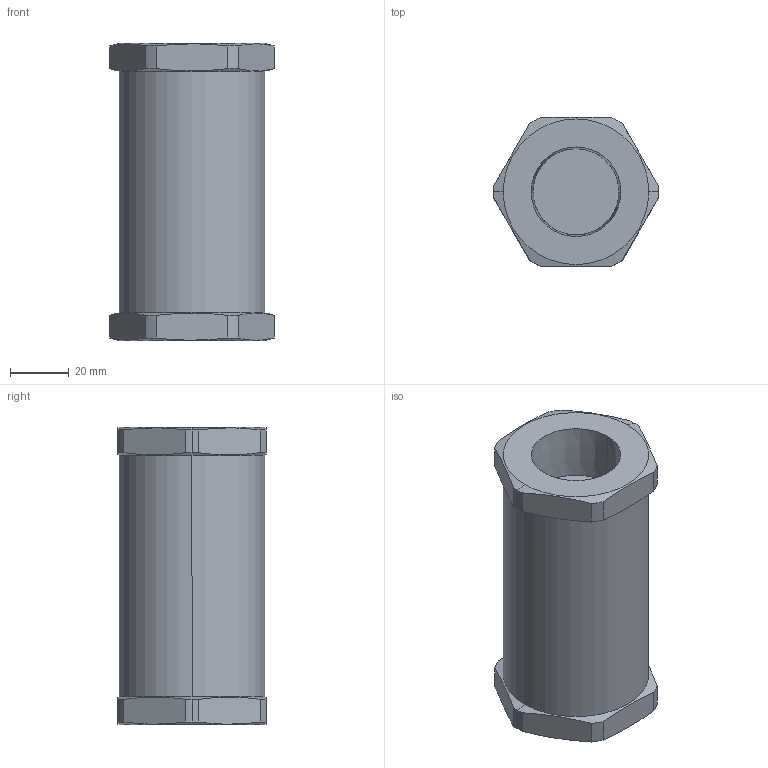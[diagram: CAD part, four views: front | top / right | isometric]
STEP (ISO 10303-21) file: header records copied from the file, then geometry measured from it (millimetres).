
FILE_DESCRIPTION (( 'STEP AP203' ), '1' );
FILE_NAME ('CV-1000B-__-__.STEP', '2011-11-04T21:07:51', ( 'Tim' ), ( 'Microsoft' ), 'SwSTEP 2.0', 'SolidWorks 2011', '' );
FILE_SCHEMA (( 'CONFIG_CONTROL_DESIGN' ));
Length unit declared in the file: inch
Products named in the file (1): CV-1000B-__-__
Bounding box: 56.38 x 50.8 x 101.6 mm (x, y, z)
Volume: 175613.2 mm3; surface area: 24386.2 mm2
Topology: 1 solids, 1 shells, 44 faces, 112 edges, 72 vertices
Faces by surface type: cylinder 16, plane 16, cone 12
Entity records: 1571 total; most frequent: CARTESIAN_POINT 429, DIRECTION 226, ORIENTED_EDGE 224, EDGE_CURVE 112, AXIS2_PLACEMENT_3D 93, VERTEX_POINT 72, CIRCLE 48, EDGE_LOOP 46
